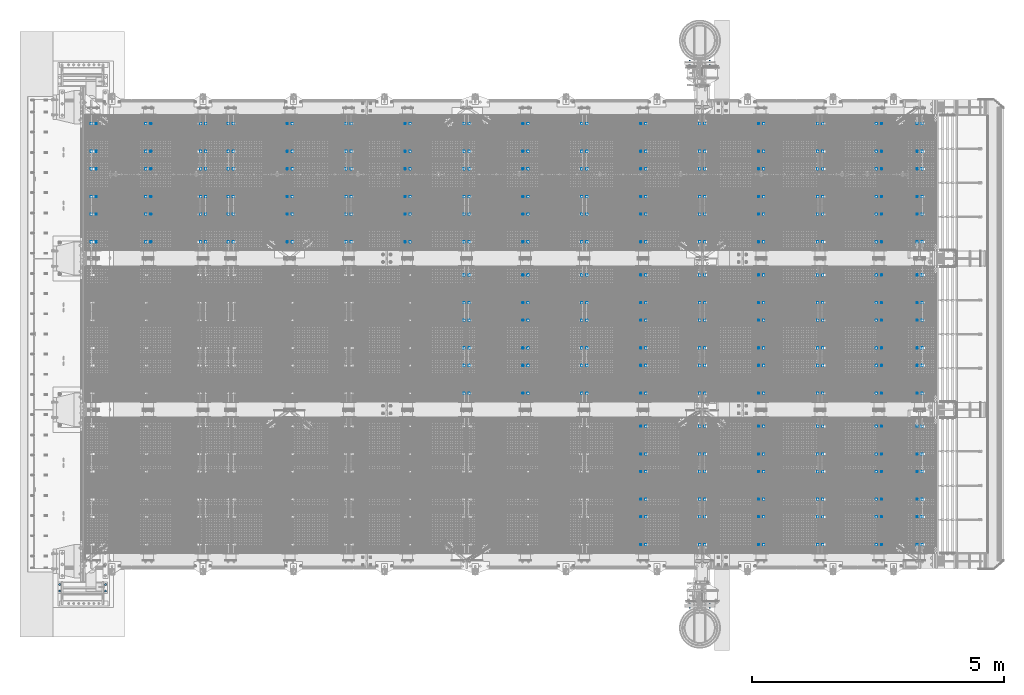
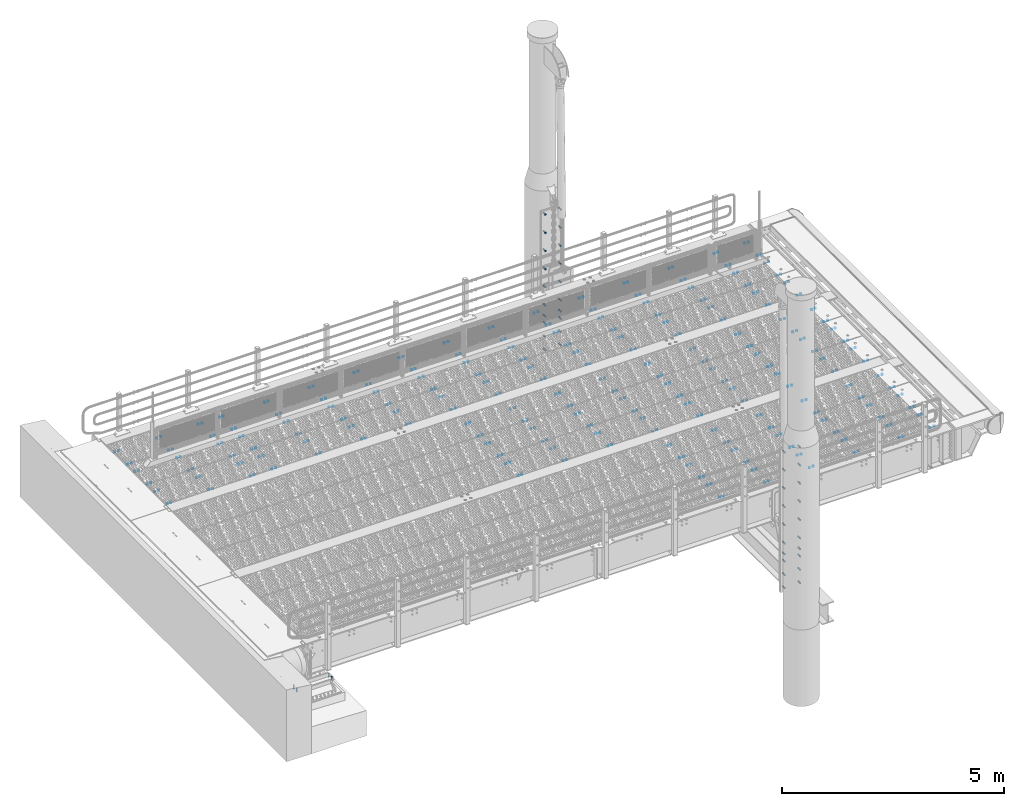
# One storey, part 2 of 1530: 66 mechanical fasteners.
"""IFC2X3 building model written with IfcOpenShell, lengths in millimetres."""

from ifc_helpers import new_model, si_unit, frame, origin_with_axes, place, context, subcontext, project, spatial, faceted_brep, source, transform, mapped, material, type_object, element, save


model = new_model("IFC2X3")

# Units and contexts
model_context = context("Model", 3, precision=1e-05, world=origin_with_axes())
body_context = subcontext(model_context, "Body", "Model", "MODEL_VIEW")
ifc_project = project(units=[si_unit("LENGTHUNIT", "METRE", prefix="MILLI"), si_unit("AREAUNIT", "SQUARE_METRE"), si_unit("VOLUMEUNIT", "CUBIC_METRE"), si_unit("MASSUNIT", "GRAM", prefix="KILO"), si_unit("TIMEUNIT", "SECOND"), si_unit("PLANEANGLEUNIT", "RADIAN"), si_unit("SOLIDANGLEUNIT", "STERADIAN"), si_unit("THERMODYNAMICTEMPERATUREUNIT", "DEGREE_CELSIUS"), si_unit("LUMINOUSINTENSITYUNIT", "LUMEN")], contexts=[model_context])

# Site, building, storey
site_placement = place(None, origin_with_axes())
site = spatial("IfcSite", under=ifc_project, at=site_placement, Name="Brattvåg", CompositionType="ELEMENT")
building_placement = place(site_placement, origin_with_axes())
building = spatial("IfcBuilding", under=site, at=building_placement, Name="Undefined", CompositionType="ELEMENT")
storey_placement = place(building_placement, origin_with_axes())
storey = spatial("IfcBuildingStorey", under=building, at=storey_placement, Name="Undefined", CompositionType="ELEMENT", Elevation=0.0)

# Mechanical fasteners
ifc_material = material(Name="8")
mechanical_fastener_type = type_object("IfcMechanicalFastenerType", Name="Bolt assembly")
shared_shape_1 = source(origin_with_axes(), body_context, "Body", "Brep", [
    faceted_brep([(11.0, 0.0, 0.0), (9.52627944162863, 0.0, 5.50000000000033), (5.49999999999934, 0.0, 9.5262794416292), (-1.13996957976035e-12, 0.0, 11.0), (-5.50000000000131, 0.0, 9.52627944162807), (-9.52627944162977, 0.0, 5.49999999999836), (-11.0, 0.0, -2.27993915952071e-12), (-9.5262794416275, 0.0, -5.5000000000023), (-5.49999999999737, 0.0, -9.52627944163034), (3.40769628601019e-12, 0.0, -11.0), (5.50000000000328, 0.0, -9.52627944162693), (9.52627944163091, 0.0, -5.49999999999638), (9.52627944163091, 15.1, -5.49999999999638), (5.50000000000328, 15.1, -9.52627944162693), (3.40769628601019e-12, 15.1, -11.0), (-5.49999999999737, 15.1, -9.52627944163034), (-9.5262794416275, 15.1, -5.5000000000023), (-11.0, 15.1, -2.27993915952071e-12), (-9.52627944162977, 15.1, 5.49999999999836), (-5.50000000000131, 15.1, 9.52627944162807), (-1.13996957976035e-12, 15.1, 11.0), (5.49999999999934, 15.1, 9.5262794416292), (9.52627944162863, 15.1, 5.50000000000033), (11.0, 15.1, 0.0)], [[[0, 1, 2, 3, 4, 5, 6, 7, 8, 9, 10, 11]], [[12, 13, 14, 15, 16, 17, 18, 19, 20, 21, 22, 23]], [[0, 23, 22, 1]], [[1, 22, 21, 2]], [[2, 21, 20, 3]], [[3, 20, 19, 4]], [[4, 19, 18, 5]], [[5, 18, 17, 6]], [[6, 17, 16, 7]], [[7, 16, 15, 8]], [[8, 15, 14, 9]], [[9, 14, 13, 10]], [[10, 13, 12, 11]], [[11, 12, 23, 0]]]),
])
for number, where, z_axis, x_axis, name in (
    (1, (137.001129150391, 6328.00155639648, -119.998931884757), (-1.0, 1.99999855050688e-09, 0.0), (0.0, 1.0, 0.0), "Bolt assembly"),
    (2, (237.001129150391, 6328.00155639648, -119.998931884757), (-1.0, 1.99999855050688e-09, 0.0), (0.0, 1.0, 0.0), "Bolt assembly"),
    (3, (1221.00112915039, 6328.00155639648, -119.998931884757), (-1.0, 1.99999855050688e-09, 0.0), (0.0, 1.0, 0.0), "Bolt assembly"),
    (4, (1321.00112915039, 6328.00155639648, -119.998931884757), (-1.0, 1.99999855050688e-09, 0.0), (0.0, 1.0, 0.0), "Bolt assembly"),
    (5, (2305.00112915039, 6328.00155639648, -119.998931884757), (-1.0, 1.99999855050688e-09, 0.0), (0.0, 1.0, 0.0), "Bolt assembly"),
    (6, (2405.00112915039, 6328.00155639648, -119.998931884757), (-1.0, 1.99999855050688e-09, 0.0), (0.0, 1.0, 0.0), "Bolt assembly"),
    (7, (2856.00112915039, 6328.00155639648, -119.998931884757), (-1.0, 1.99999855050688e-09, 0.0), (0.0, 1.0, 0.0), "Bolt assembly"),
    (8, (2956.00112915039, 6328.00155639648, -119.998931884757), (-1.0, 1.99999855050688e-09, 0.0), (0.0, 1.0, 0.0), "Bolt assembly"),
    (9, (4024.00112915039, 6328.00155639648, -119.998931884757), (-1.0, 1.99999855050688e-09, 0.0), (0.0, 1.0, 0.0), "Bolt assembly"),
    (10, (4124.00112915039, 6328.00155639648, -119.998931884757), (-1.0, 1.99999855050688e-09, 0.0), (0.0, 1.0, 0.0), "Bolt assembly"),
    (11, (5192.00112915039, 6328.00155639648, -119.998931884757), (-1.0, 1.99999855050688e-09, 0.0), (0.0, 1.0, 0.0), "Bolt assembly"),
    (12, (5292.00112915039, 6328.00155639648, -119.998931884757), (-1.0, 1.99999855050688e-09, 0.0), (0.0, 1.0, 0.0), "Bolt assembly"),
    (13, (6360.00112915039, 6328.00155639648, -119.998931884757), (-1.0, 1.99999855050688e-09, 0.0), (0.0, 1.0, 0.0), "Bolt assembly"),
    (14, (6460.00112915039, 6328.00155639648, -119.998931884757), (-1.0, 1.99999855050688e-09, 0.0), (0.0, 1.0, 0.0), "Bolt assembly"),
    (15, (7528.00112915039, 6328.00155639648, -119.998931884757), (-1.0, 1.99999855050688e-09, 0.0), (0.0, 1.0, 0.0), "Bolt assembly"),
    (16, (7628.00112915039, 6328.00155639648, -119.998931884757), (-1.0, 1.99999855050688e-09, 0.0), (0.0, 1.0, 0.0), "Bolt assembly"),
    (17, (8696.00112915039, 6328.00155639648, -119.998931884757), (-1.0, 1.99999855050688e-09, 0.0), (0.0, 1.0, 0.0), "Bolt assembly"),
    (18, (8796.00112915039, 6328.00155639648, -119.998931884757), (-1.0, 1.99999855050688e-09, 0.0), (0.0, 1.0, 0.0), "Bolt assembly"),
    (19, (9864.00112915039, 6328.00155639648, -119.998931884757), (-1.0, 1.99999855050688e-09, 0.0), (0.0, 1.0, 0.0), "Bolt assembly"),
    (20, (9964.00112915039, 6328.00155639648, -119.998931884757), (-1.0, 1.99999855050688e-09, 0.0), (0.0, 1.0, 0.0), "Bolt assembly"),
    (21, (11032.0011291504, 6328.00155639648, -119.998931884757), (-1.0, 1.99999855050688e-09, 0.0), (0.0, 1.0, 0.0), "Bolt assembly"),
    (22, (11132.0011291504, 6328.00155639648, -119.998931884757), (-1.0, 1.99999855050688e-09, 0.0), (0.0, 1.0, 0.0), "Bolt assembly"),
    (23, (12200.0011291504, 6328.00155639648, -119.998931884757), (-1.0, 1.99999855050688e-09, 0.0), (0.0, 1.0, 0.0), "Bolt assembly"),
    (24, (12300.0011291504, 6328.00155639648, -119.998931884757), (-1.0, 1.99999855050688e-09, 0.0), (0.0, 1.0, 0.0), "Bolt assembly"),
    (25, (13368.0011291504, 6328.00155639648, -119.998931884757), (-1.0, 1.99999855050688e-09, 0.0), (0.0, 1.0, 0.0), "Bolt assembly"),
    (26, (13468.0011291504, 6328.00155639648, -119.998931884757), (-1.0, 1.99999855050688e-09, 0.0), (0.0, 1.0, 0.0), "Bolt assembly"),
    (27, (14536.0011291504, 6328.00155639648, -119.998931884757), (-1.0, 1.99999855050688e-09, 0.0), (0.0, 1.0, 0.0), "Bolt assembly"),
    (28, (14636.0011291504, 6328.00155639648, -119.998931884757), (-1.0, 1.99999855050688e-09, 0.0), (0.0, 1.0, 0.0), "Bolt assembly"),
    (29, (15704.0011291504, 6328.00155639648, -119.998931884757), (-1.0, 1.99999855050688e-09, 0.0), (0.0, 1.0, 0.0), "Bolt assembly"),
    (30, (15804.0011291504, 6328.00155639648, -119.998931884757), (-1.0, 1.99999855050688e-09, 0.0), (0.0, 1.0, 0.0), "Bolt assembly"),
    (31, (16508.0011291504, 6328.00155639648, -119.998931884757), (-1.0, 1.99999855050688e-09, 0.0), (0.0, 1.0, 0.0), "Bolt assembly"),
    (32, (16608.0011291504, 6328.00155639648, -119.998931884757), (-1.0, 1.99999855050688e-09, 0.0), (0.0, 1.0, 0.0), "Bolt assembly"),
    (33, (16508.0011291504, 3328.00155639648, -119.998931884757), (-1.0, 1.99999855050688e-09, 0.0), (0.0, 1.0, 0.0), "Bolt assembly"),
    (34, (16608.0011291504, 3328.00155639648, -119.998931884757), (-1.0, 1.99999855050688e-09, 0.0), (0.0, 1.0, 0.0), "Bolt assembly"),
    (35, (15704.0011291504, 3328.00155639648, -119.998931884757), (-1.0, 1.99999855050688e-09, 0.0), (0.0, 1.0, 0.0), "Bolt assembly"),
    (36, (15804.0011291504, 3328.00155639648, -119.998931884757), (-1.0, 1.99999855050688e-09, 0.0), (0.0, 1.0, 0.0), "Bolt assembly"),
    (37, (14536.0011291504, 3328.00155639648, -119.998931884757), (-1.0, 1.99999855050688e-09, 0.0), (0.0, 1.0, 0.0), "Bolt assembly"),
    (38, (14636.0011291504, 3328.00155639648, -119.998931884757), (-1.0, 1.99999855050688e-09, 0.0), (0.0, 1.0, 0.0), "Bolt assembly"),
    (39, (13368.0011291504, 3328.00155639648, -119.998931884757), (-1.0, 1.99999855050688e-09, 0.0), (0.0, 1.0, 0.0), "Bolt assembly"),
    (40, (13468.0011291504, 3328.00155639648, -119.998931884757), (-1.0, 1.99999855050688e-09, 0.0), (0.0, 1.0, 0.0), "Bolt assembly"),
    (41, (12200.0011291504, 3328.00155639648, -119.998931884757), (-1.0, 1.99999855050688e-09, 0.0), (0.0, 1.0, 0.0), "Bolt assembly"),
    (42, (12300.0011291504, 3328.00155639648, -119.998931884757), (-1.0, 1.99999855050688e-09, 0.0), (0.0, 1.0, 0.0), "Bolt assembly"),
    (43, (11032.0011291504, 3328.00155639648, -119.998931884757), (-1.0, 1.99999855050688e-09, 0.0), (0.0, 1.0, 0.0), "Bolt assembly"),
    (44, (11132.0011291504, 3328.00155639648, -119.998931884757), (-1.0, 1.99999855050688e-09, 0.0), (0.0, 1.0, 0.0), "Bolt assembly"),
    (45, (9864.00112915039, 3328.00155639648, -119.998931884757), (-1.0, 1.99999855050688e-09, 0.0), (0.0, 1.0, 0.0), "Bolt assembly"),
    (46, (9964.00112915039, 3328.00155639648, -119.998931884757), (-1.0, 1.99999855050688e-09, 0.0), (0.0, 1.0, 0.0), "Bolt assembly"),
    (47, (8696.00112915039, 3328.00155639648, -119.998931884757), (-1.0, 1.99999855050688e-09, 0.0), (0.0, 1.0, 0.0), "Bolt assembly"),
    (48, (8796.00112915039, 3328.00155639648, -119.998931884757), (-1.0, 1.99999855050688e-09, 0.0), (0.0, 1.0, 0.0), "Bolt assembly"),
    (49, (7528.00112915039, 3328.00155639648, -119.998931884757), (-1.0, 1.99999855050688e-09, 0.0), (0.0, 1.0, 0.0), "Bolt assembly"),
    (50, (7628.00112915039, 3328.00155639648, -119.998931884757), (-1.0, 1.99999855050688e-09, 0.0), (0.0, 1.0, 0.0), "Bolt assembly"),
    (51, (16508.0011291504, 328.001556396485, -119.998931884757), (-1.0, 1.99999855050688e-09, 0.0), (0.0, 1.0, 0.0), "Bolt assembly"),
    (52, (16608.0011291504, 328.001556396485, -119.998931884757), (-1.0, 1.99999855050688e-09, 0.0), (0.0, 1.0, 0.0), "Bolt assembly"),
    (53, (15704.0011291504, 328.001556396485, -119.998931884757), (-1.0, 1.99999855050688e-09, 0.0), (0.0, 1.0, 0.0), "Bolt assembly"),
    (54, (15804.0011291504, 328.001556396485, -119.998931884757), (-1.0, 1.99999855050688e-09, 0.0), (0.0, 1.0, 0.0), "Bolt assembly"),
    (55, (14536.0011291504, 328.001556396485, -119.998931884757), (-1.0, 1.99999855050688e-09, 0.0), (0.0, 1.0, 0.0), "Bolt assembly"),
    (56, (14636.0011291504, 328.001556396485, -119.998931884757), (-1.0, 1.99999855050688e-09, 0.0), (0.0, 1.0, 0.0), "Bolt assembly"),
    (57, (13368.0011291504, 328.001556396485, -119.998931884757), (-1.0, 1.99999855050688e-09, 0.0), (0.0, 1.0, 0.0), "Bolt assembly"),
    (58, (13468.0011291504, 328.001556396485, -119.998931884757), (-1.0, 1.99999855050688e-09, 0.0), (0.0, 1.0, 0.0), "Bolt assembly"),
    (59, (12200.0011291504, 328.001556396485, -119.998931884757), (-1.0, 1.99999855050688e-09, 0.0), (0.0, 1.0, 0.0), "Bolt assembly"),
    (60, (12300.0011291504, 328.001556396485, -119.998931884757), (-1.0, 1.99999855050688e-09, 0.0), (0.0, 1.0, 0.0), "Bolt assembly"),
    (61, (11032.0011291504, 328.001556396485, -119.998931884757), (-1.0, 1.99999855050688e-09, 0.0), (0.0, 1.0, 0.0), "Bolt assembly"),
    (62, (11132.0011291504, 328.001556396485, -119.998931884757), (-1.0, 1.99999855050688e-09, 0.0), (0.0, 1.0, 0.0), "Bolt assembly"),
):
    element("IfcMechanicalFastener", number, at=place(storey_placement, frame(where, z_axis=z_axis, x_axis=x_axis)), inside=storey, type_object=mechanical_fastener_type, material=ifc_material, Name=name, NominalDiameter=20.0, NominalLength=15.0, context=body_context, shape_type="MappedRepresentation", body=[
        mapped(shared_shape_1, transform((0.0, 0.0, 0.0))),
        mapped(shared_shape_1, transform((549.999999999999, 0.0, 0.0))),
        mapped(shared_shape_1, transform((897.0, 0.0, 0.0))),
        mapped(shared_shape_1, transform((1447.0, 0.0, 0.0))),
        mapped(shared_shape_1, transform((1794.0, 0.0, 0.0))),
        mapped(shared_shape_1, transform((2344.0, 0.0, 0.0))),
    ])
shared_shape_2 = source(origin_with_axes(), body_context, "Body", "Brep", [
    faceted_brep([(20.7846096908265, -49.0000000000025, 0.0), (10.3923048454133, -49.0000000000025, 18.0), (-10.3923048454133, -49.0000000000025, 18.0), (-20.7846096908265, -49.0000000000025, 2.54538057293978e-15), (-10.3923048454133, -49.0000000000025, -18.0), (10.3923048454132, -49.0000000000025, -18.0), (10.3923048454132, -34.0000000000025, -18.0), (-10.3923048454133, -34.0000000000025, -18.0), (-20.7846096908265, -34.0000000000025, 2.54538057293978e-15), (-10.3923048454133, -34.0000000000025, 18.0), (10.3923048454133, -34.0000000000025, 18.0), (20.7846096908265, -34.0000000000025, 0.0), (12.0, -34.0000000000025, 0.0), (10.3923048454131, -34.0000000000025, 6.00000000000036), (5.99999999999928, -34.0000000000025, 10.3923048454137), (-1.24360317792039e-12, -34.0000000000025, 12.0), (-6.00000000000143, -34.0000000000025, 10.3923048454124), (-10.3923048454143, -34.0000000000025, 5.99999999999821), (-12.0, -34.0000000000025, -2.48720635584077e-12), (-10.3923048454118, -34.0000000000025, -6.00000000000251), (-5.99999999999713, -34.0000000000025, -10.3923048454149), (3.71748685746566e-12, -34.0000000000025, -12.0), (6.00000000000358, -34.0000000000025, -10.3923048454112), (10.3923048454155, -34.0000000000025, -5.99999999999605), (10.3923048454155, 65.9999999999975, -5.99999999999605), (6.00000000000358, 65.9999999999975, -10.3923048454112), (3.71748685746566e-12, 65.9999999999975, -12.0), (-5.99999999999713, 65.9999999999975, -10.3923048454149), (-10.3923048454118, 65.9999999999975, -6.00000000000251), (-12.0, 65.9999999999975, -2.48720635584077e-12), (-10.3923048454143, 65.9999999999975, 5.99999999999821), (-6.00000000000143, 65.9999999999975, 10.3923048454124), (-1.24360317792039e-12, 65.9999999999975, 12.0), (5.99999999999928, 65.9999999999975, 10.3923048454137), (10.3923048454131, 65.9999999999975, 6.00000000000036), (12.0, 65.9999999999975, 0.0), (22.0, -34.0000000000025, 0.0), (19.0525588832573, -34.0000000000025, 11.0000000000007), (10.9999999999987, -34.0000000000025, 19.0525588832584), (-2.27993915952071e-12, -34.0000000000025, 22.0), (-11.0000000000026, -34.0000000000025, 19.0525588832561), (-19.0525588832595, -34.0000000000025, 10.9999999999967), (-22.0, -34.0000000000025, -4.55987831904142e-12), (-19.052558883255, -34.0000000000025, -11.0000000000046), (-10.9999999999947, -34.0000000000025, -19.0525588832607), (6.81539257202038e-12, -34.0000000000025, -22.0), (11.0000000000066, -34.0000000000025, -19.0525588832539), (19.0525588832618, -34.0000000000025, -10.9999999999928), (19.0525588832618, -30.0000000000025, -10.9999999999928), (11.0000000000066, -30.0000000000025, -19.0525588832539), (6.81539257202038e-12, -30.0000000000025, -22.0), (-10.9999999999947, -30.0000000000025, -19.0525588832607), (-19.052558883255, -30.0000000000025, -11.0000000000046), (-22.0, -30.0000000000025, -4.55987831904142e-12), (-19.0525588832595, -30.0000000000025, 10.9999999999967), (-11.0000000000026, -30.0000000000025, 19.0525588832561), (-2.27993915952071e-12, -30.0000000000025, 22.0), (10.9999999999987, -30.0000000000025, 19.0525588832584), (19.0525588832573, -30.0000000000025, 11.0000000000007), (22.0, -30.0000000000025, 0.0), (22.0, 29.9999999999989, 0.0), (19.0525588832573, 29.9999999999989, 11.0000000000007), (10.9999999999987, 29.9999999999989, 19.0525588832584), (-2.27993915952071e-12, 29.9999999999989, 22.0), (-11.0000000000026, 29.9999999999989, 19.0525588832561), (-19.0525588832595, 29.9999999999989, 10.9999999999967), (-22.0, 29.9999999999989, -4.55987831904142e-12), (-19.052558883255, 29.9999999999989, -11.0000000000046), (-10.9999999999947, 29.9999999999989, -19.0525588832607), (6.81539257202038e-12, 29.9999999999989, -22.0), (11.0000000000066, 29.9999999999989, -19.0525588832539), (19.0525588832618, 29.9999999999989, -10.9999999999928), (19.0525588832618, 33.9999999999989, -10.9999999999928), (11.0000000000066, 33.9999999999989, -19.0525588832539), (6.81539257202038e-12, 33.9999999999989, -22.0), (-10.9999999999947, 33.9999999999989, -19.0525588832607), (-19.052558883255, 33.9999999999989, -11.0000000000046), (-22.0, 33.9999999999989, -4.55987831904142e-12), (-19.0525588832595, 33.9999999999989, 10.9999999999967), (-11.0000000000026, 33.9999999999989, 19.0525588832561), (-2.27993915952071e-12, 33.9999999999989, 22.0), (10.9999999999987, 33.9999999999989, 19.0525588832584), (19.0525588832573, 33.9999999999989, 11.0000000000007), (22.0, 33.9999999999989, 0.0), (20.7846096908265, 33.9999999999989, 0.0), (10.3923048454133, 33.9999999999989, 18.0), (-10.3923048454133, 33.9999999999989, 18.0), (-20.7846096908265, 33.9999999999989, 2.54538057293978e-15), (-10.3923048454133, 33.9999999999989, -18.0), (10.3923048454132, 33.9999999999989, -18.0), (10.3923048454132, 55.4999999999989, -18.0), (-10.3923048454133, 55.4999999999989, -18.0), (-20.7846096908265, 55.4999999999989, 2.54538057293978e-15), (-10.3923048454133, 55.4999999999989, 18.0), (10.3923048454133, 55.4999999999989, 18.0), (20.7846096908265, 55.4999999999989, 0.0)], [[[0, 1, 2, 3, 4, 5]], [[6, 7, 8, 9, 10, 11]], [[0, 11, 10, 1]], [[1, 10, 9, 2]], [[2, 9, 8, 3]], [[3, 8, 7, 4]], [[4, 7, 6, 5]], [[5, 6, 11, 0]], [[12, 13, 14, 15, 16, 17, 18, 19, 20, 21, 22, 23]], [[24, 25, 26, 27, 28, 29, 30, 31, 32, 33, 34, 35]], [[12, 35, 34, 13]], [[13, 34, 33, 14]], [[14, 33, 32, 15]], [[15, 32, 31, 16]], [[16, 31, 30, 17]], [[17, 30, 29, 18]], [[18, 29, 28, 19]], [[19, 28, 27, 20]], [[20, 27, 26, 21]], [[21, 26, 25, 22]], [[22, 25, 24, 23]], [[23, 24, 35, 12]], [[36, 37, 38, 39, 40, 41, 42, 43, 44, 45, 46, 47]], [[48, 49, 50, 51, 52, 53, 54, 55, 56, 57, 58, 59]], [[36, 59, 58, 37]], [[37, 58, 57, 38]], [[38, 57, 56, 39]], [[39, 56, 55, 40]], [[40, 55, 54, 41]], [[41, 54, 53, 42]], [[42, 53, 52, 43]], [[43, 52, 51, 44]], [[44, 51, 50, 45]], [[45, 50, 49, 46]], [[46, 49, 48, 47]], [[47, 48, 59, 36]], [[60, 61, 62, 63, 64, 65, 66, 67, 68, 69, 70, 71]], [[72, 73, 74, 75, 76, 77, 78, 79, 80, 81, 82, 83]], [[60, 83, 82, 61]], [[61, 82, 81, 62]], [[62, 81, 80, 63]], [[63, 80, 79, 64]], [[64, 79, 78, 65]], [[65, 78, 77, 66]], [[66, 77, 76, 67]], [[67, 76, 75, 68]], [[68, 75, 74, 69]], [[69, 74, 73, 70]], [[70, 73, 72, 71]], [[71, 72, 83, 60]], [[84, 85, 86, 87, 88, 89]], [[90, 91, 92, 93, 94, 95]], [[84, 95, 94, 85]], [[85, 94, 93, 86]], [[86, 93, 92, 87]], [[87, 92, 91, 88]], [[88, 91, 90, 89]], [[89, 90, 95, 84]]]),
    faceted_brep([(13.0, -29.9000000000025, 0.0), (11.2583302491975, -29.9000000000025, 6.50000000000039), (6.49999999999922, -29.9000000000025, 11.2583302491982), (-1.34723677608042e-12, -29.9000000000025, 13.0), (-6.50000000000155, -29.9000000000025, 11.2583302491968), (-11.2583302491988, -29.9000000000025, 6.49999999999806), (-13.0, -29.9000000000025, -2.69447355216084e-12), (-11.2583302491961, -29.9000000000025, -6.50000000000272), (-6.4999999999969, -29.9000000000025, -11.2583302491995), (4.02727742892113e-12, -29.9000000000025, -13.0), (6.50000000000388, -29.9000000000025, -11.2583302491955), (11.2583302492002, -29.9000000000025, -6.49999999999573), (11.2583302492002, 0.0999999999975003, -6.49999999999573), (6.50000000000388, 0.0999999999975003, -11.2583302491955), (4.02727742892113e-12, 0.0999999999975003, -13.0), (-6.4999999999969, 0.0999999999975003, -11.2583302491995), (-11.2583302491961, 0.0999999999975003, -6.50000000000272), (-13.0, 0.0999999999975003, -2.69447355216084e-12), (-11.2583302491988, 0.0999999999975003, 6.49999999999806), (-6.50000000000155, 0.0999999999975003, 11.2583302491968), (-1.34723677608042e-12, 0.0999999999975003, 13.0), (6.49999999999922, 0.0999999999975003, 11.2583302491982), (11.2583302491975, 0.0999999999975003, 6.50000000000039), (13.0, 0.0999999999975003, 0.0), (13.0, -0.100000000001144, 0.0), (11.2583302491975, -0.100000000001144, 6.50000000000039), (6.49999999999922, -0.100000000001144, 11.2583302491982), (-1.34723677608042e-12, -0.100000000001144, 13.0), (-6.50000000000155, -0.100000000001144, 11.2583302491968), (-11.2583302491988, -0.100000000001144, 6.49999999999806), (-13.0, -0.100000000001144, -2.69447355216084e-12), (-11.2583302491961, -0.100000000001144, -6.50000000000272), (-6.4999999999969, -0.100000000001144, -11.2583302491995), (4.02727742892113e-12, -0.100000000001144, -13.0), (6.50000000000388, -0.100000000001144, -11.2583302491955), (11.2583302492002, -0.100000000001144, -6.49999999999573), (11.2583302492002, 29.9999999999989, -6.49999999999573), (6.50000000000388, 29.9999999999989, -11.2583302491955), (4.02727742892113e-12, 29.9999999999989, -13.0), (-6.4999999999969, 29.9999999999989, -11.2583302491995), (-11.2583302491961, 29.9999999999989, -6.50000000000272), (-13.0, 29.9999999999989, -2.69447355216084e-12), (-11.2583302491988, 29.9999999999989, 6.49999999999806), (-6.50000000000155, 29.9999999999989, 11.2583302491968), (-1.34723677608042e-12, 29.9999999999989, 13.0), (6.49999999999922, 29.9999999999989, 11.2583302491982), (11.2583302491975, 29.9999999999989, 6.50000000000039), (13.0, 29.9999999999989, 0.0)], [[[0, 1, 2, 3, 4, 5, 6, 7, 8, 9, 10, 11]], [[12, 13, 14, 15, 16, 17, 18, 19, 20, 21, 22, 23]], [[0, 23, 22, 1]], [[1, 22, 21, 2]], [[2, 21, 20, 3]], [[3, 20, 19, 4]], [[4, 19, 18, 5]], [[5, 18, 17, 6]], [[6, 17, 16, 7]], [[7, 16, 15, 8]], [[8, 15, 14, 9]], [[9, 14, 13, 10]], [[10, 13, 12, 11]], [[11, 12, 23, 0]], [[24, 25, 26, 27, 28, 29, 30, 31, 32, 33, 34, 35]], [[36, 37, 38, 39, 40, 41, 42, 43, 44, 45, 46, 47]], [[24, 47, 46, 25]], [[25, 46, 45, 26]], [[26, 45, 44, 27]], [[27, 44, 43, 28]], [[28, 43, 42, 29]], [[29, 42, 41, 30]], [[30, 41, 40, 31]], [[31, 40, 39, 32]], [[32, 39, 38, 33]], [[33, 38, 37, 34]], [[34, 37, 36, 35]], [[35, 36, 47, 24]]]),
])
for number, where, z_axis, x_axis, name in (
    (63, (-488.999828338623, -592.498931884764, -817.999973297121), (-1.0, 1.99999855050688e-09, 0.0), (0.0, 1.0, 0.0), "Bolt assembly"),
    (64, (420.000171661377, -592.498931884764, -817.999973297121), (-1.0, 1.99999855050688e-09, 0.0), (0.0, 1.0, 0.0), "Bolt assembly"),
):
    element("IfcMechanicalFastener", number, at=place(storey_placement, frame(where, z_axis=z_axis, x_axis=x_axis)), inside=storey, type_object=mechanical_fastener_type, material=ifc_material, Name=name, NominalDiameter=24.0, NominalLength=100.0, context=body_context, shape_type="MappedRepresentation", body=[
        mapped(shared_shape_2, transform((0.0, 0.0, 0.0))),
        mapped(shared_shape_2, transform((130.0, 0.0, 0.0))),
    ])
shared_shape_3 = source(origin_with_axes(), body_context, "Body", "Brep", [
    faceted_brep([(17.3205080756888, -13.2, 0.0), (8.66025403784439, -13.2, 15.0), (-8.66025403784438, -13.2, 15.0), (-17.3205080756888, -13.2, 2.12115047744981e-15), (-8.66025403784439, -13.2, -15.0), (8.66025403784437, -13.2, -15.0), (8.66025403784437, 0.0, -15.0), (-8.66025403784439, 0.0, -15.0), (-17.3205080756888, 0.0, 2.12115047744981e-15), (-8.66025403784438, 0.0, 15.0), (8.66025403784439, 0.0, 15.0), (17.3205080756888, 0.0, 0.0), (10.0, 0.0, 0.0), (8.66025403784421, 0.0, 5.0000000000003), (4.9999999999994, 0.0, 8.66025403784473), (-1.03633598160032e-12, 0.0, 10.0), (-5.00000000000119, 0.0, 8.6602540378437), (-8.66025403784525, 0.0, 4.99999999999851), (-9.99999999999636, 0.0, 0.0), (-8.66025403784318, 0.0, -5.00000000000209), (-4.99999999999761, 0.0, -8.66025403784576), (3.09790571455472e-12, 0.0, -10.0), (5.00000000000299, 0.0, -8.66025403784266), (8.66025403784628, 0.0, -4.99999999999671), (8.66025403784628, 90.0, -4.99999999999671), (5.00000000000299, 90.0, -8.66025403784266), (3.09790571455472e-12, 90.0, -10.0), (-4.99999999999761, 90.0, -8.66025403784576), (-8.66025403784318, 90.0, -5.00000000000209), (-10.0, 90.0, -2.07267196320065e-12), (-8.66025403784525, 90.0, 4.99999999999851), (-5.00000000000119, 90.0, 8.6602540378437), (-1.03633598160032e-12, 90.0, 10.0), (4.9999999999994, 90.0, 8.66025403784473), (8.66025403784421, 90.0, 5.0000000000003), (10.0, 90.0, 0.0), (18.5, 65.0, 0.0), (16.0214699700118, 65.0, 9.25000000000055), (9.2499999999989, 65.0, 16.0214699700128), (-1.9172215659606e-12, 65.0, 18.5), (-9.25000000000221, 65.0, 16.0214699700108), (-16.0214699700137, 65.0, 9.24999999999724), (-18.5, 65.0, -3.83444313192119e-12), (-16.0214699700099, 65.0, -9.25000000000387), (-9.24999999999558, 65.0, -16.0214699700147), (5.73112557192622e-12, 65.0, -18.5), (9.25000000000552, 65.0, -16.0214699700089), (16.0214699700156, 65.0, -9.24999999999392), (16.0214699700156, 68.0, -9.24999999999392), (9.25000000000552, 68.0, -16.0214699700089), (5.73112557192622e-12, 68.0, -18.5), (-9.24999999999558, 68.0, -16.0214699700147), (-16.0214699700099, 68.0, -9.25000000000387), (-18.5, 68.0, -3.83444313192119e-12), (-16.0214699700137, 68.0, 9.24999999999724), (-9.25000000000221, 68.0, 16.0214699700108), (-1.9172215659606e-12, 68.0, 18.5), (9.2499999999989, 68.0, 16.0214699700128), (16.0214699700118, 68.0, 9.25000000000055), (18.5, 68.0, 0.0), (17.3205080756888, 68.0, 0.0), (8.66025403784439, 68.0, 15.0), (-8.66025403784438, 68.0, 15.0), (-17.3205080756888, 68.0, 2.12115047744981e-15), (-8.66025403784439, 68.0, -15.0), (8.66025403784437, 68.0, -15.0), (8.66025403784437, 84.0, -15.0), (-8.66025403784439, 84.0, -15.0), (-17.3205080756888, 84.0, 2.12115047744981e-15), (-8.66025403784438, 84.0, 15.0), (8.66025403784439, 84.0, 15.0), (17.3205080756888, 84.0, 0.0)], [[[0, 1, 2, 3, 4, 5]], [[6, 7, 8, 9, 10, 11]], [[0, 11, 10, 1]], [[1, 10, 9, 2]], [[2, 9, 8, 3]], [[3, 8, 7, 4]], [[4, 7, 6, 5]], [[5, 6, 11, 0]], [[12, 13, 14, 15, 16, 17, 18, 19, 20, 21, 22, 23]], [[24, 25, 26, 27, 28, 29, 30, 31, 32, 33, 34, 35]], [[12, 35, 34, 13]], [[13, 34, 33, 14]], [[14, 33, 32, 15]], [[15, 32, 31, 16]], [[16, 31, 30, 17]], [[17, 30, 29, 18]], [[18, 29, 28, 19]], [[19, 28, 27, 20]], [[20, 27, 26, 21]], [[21, 26, 25, 22]], [[22, 25, 24, 23]], [[23, 24, 35, 12]], [[36, 37, 38, 39, 40, 41, 42, 43, 44, 45, 46, 47]], [[48, 49, 50, 51, 52, 53, 54, 55, 56, 57, 58, 59]], [[36, 59, 58, 37]], [[37, 58, 57, 38]], [[38, 57, 56, 39]], [[39, 56, 55, 40]], [[40, 55, 54, 41]], [[41, 54, 53, 42]], [[42, 53, 52, 43]], [[43, 52, 51, 44]], [[44, 51, 50, 45]], [[45, 50, 49, 46]], [[46, 49, 48, 47]], [[47, 48, 59, 36]], [[60, 61, 62, 63, 64, 65]], [[66, 67, 68, 69, 70, 71]], [[60, 71, 70, 61]], [[61, 70, 69, 62]], [[62, 69, 68, 63]], [[63, 68, 67, 64]], [[64, 67, 66, 65]], [[65, 66, 71, 60]]]),
    faceted_brep([(11.0, 0.1, 0.0), (9.52627944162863, 0.1, 5.50000000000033), (5.49999999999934, 0.1, 9.5262794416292), (-1.13996957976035e-12, 0.1, 11.0), (-5.50000000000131, 0.1, 9.52627944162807), (-9.52627944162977, 0.1, 5.49999999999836), (-11.0, 0.1, -2.27993915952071e-12), (-9.5262794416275, 0.1, -5.5000000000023), (-5.49999999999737, 0.1, -9.52627944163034), (3.40769628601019e-12, 0.1, -11.0), (5.50000000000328, 0.1, -9.52627944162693), (9.52627944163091, 0.1, -5.49999999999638), (9.52627944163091, 40.1, -5.49999999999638), (5.50000000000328, 40.1, -9.52627944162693), (3.40769628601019e-12, 40.1, -11.0), (-5.49999999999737, 40.1, -9.52627944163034), (-9.5262794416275, 40.1, -5.5000000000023), (-11.0, 40.1, -2.27993915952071e-12), (-9.52627944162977, 40.1, 5.49999999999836), (-5.50000000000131, 40.1, 9.52627944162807), (-1.13996957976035e-12, 40.1, 11.0), (5.49999999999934, 40.1, 9.5262794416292), (9.52627944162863, 40.1, 5.50000000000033), (11.0, 40.1, 0.0), (11.0, 39.9, 0.0), (9.52627944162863, 39.9, 5.50000000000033), (5.49999999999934, 39.9, 9.5262794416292), (-1.13996957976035e-12, 39.9, 11.0), (-5.50000000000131, 39.9, 9.52627944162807), (-9.52627944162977, 39.9, 5.49999999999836), (-11.0, 39.9, -2.27993915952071e-12), (-9.5262794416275, 39.9, -5.5000000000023), (-5.49999999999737, 39.9, -9.52627944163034), (3.40769628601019e-12, 39.9, -11.0), (5.50000000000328, 39.9, -9.52627944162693), (9.52627944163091, 39.9, -5.49999999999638), (9.52627944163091, 65.0, -5.49999999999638), (5.50000000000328, 65.0, -9.52627944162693), (3.40769628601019e-12, 65.0, -11.0), (-5.49999999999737, 65.0, -9.52627944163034), (-9.5262794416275, 65.0, -5.5000000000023), (-11.0, 65.0, -2.27993915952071e-12), (-9.52627944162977, 65.0, 5.49999999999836), (-5.50000000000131, 65.0, 9.52627944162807), (-1.13996957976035e-12, 65.0, 11.0), (5.49999999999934, 65.0, 9.5262794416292), (9.52627944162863, 65.0, 5.50000000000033), (11.0, 65.0, 0.0)], [[[0, 1, 2, 3, 4, 5, 6, 7, 8, 9, 10, 11]], [[12, 13, 14, 15, 16, 17, 18, 19, 20, 21, 22, 23]], [[0, 23, 22, 1]], [[1, 22, 21, 2]], [[2, 21, 20, 3]], [[3, 20, 19, 4]], [[4, 19, 18, 5]], [[5, 18, 17, 6]], [[6, 17, 16, 7]], [[7, 16, 15, 8]], [[8, 15, 14, 9]], [[9, 14, 13, 10]], [[10, 13, 12, 11]], [[11, 12, 23, 0]], [[24, 25, 26, 27, 28, 29, 30, 31, 32, 33, 34, 35]], [[36, 37, 38, 39, 40, 41, 42, 43, 44, 45, 46, 47]], [[24, 47, 46, 25]], [[25, 46, 45, 26]], [[26, 45, 44, 27]], [[27, 44, 43, 28]], [[28, 43, 42, 29]], [[29, 42, 41, 30]], [[30, 41, 40, 31]], [[31, 40, 39, 32]], [[32, 39, 38, 33]], [[33, 38, 37, 34]], [[34, 37, 36, 35]], [[35, 36, 47, 24]]]),
])
mechanical_fastener_1_placement = place(storey_placement, frame((12200.0002975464, 9849.99983596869, -2199.99997283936), z_axis=(-1.0, 1.99999855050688e-09, 0.0), x_axis=(0.0, 0.0, 1.0)))
element("IfcMechanicalFastener", 65, at=mechanical_fastener_1_placement, inside=storey, type_object=mechanical_fastener_type, material=ifc_material, Name="Bolt assembly", NominalDiameter=20.0, NominalLength=90.0, context=body_context, shape_type="MappedRepresentation", body=[
    mapped(shared_shape_3, transform((0.0, 0.0, 200.0))),
    mapped(shared_shape_3, transform((365.0, 0.0, 200.0))),
    mapped(shared_shape_3, transform((730.0, 0.0, 200.0))),
    mapped(shared_shape_3, transform((930.0, 0.0, 200.0))),
    mapped(shared_shape_3, transform((1230.0, 0.0, 200.0))),
    mapped(shared_shape_3, transform((1730.0, 0.0, 200.0))),
    mapped(shared_shape_3, transform((2230.0, 0.0, 200.0))),
    mapped(shared_shape_3, transform((2730.0, 0.0, 200.0))),
    mapped(shared_shape_3, transform((3230.0, 0.0, 200.0))),
    mapped(shared_shape_3, transform((3730.0, 0.0, 200.0))),
    mapped(shared_shape_3, transform((0.0, 0.0, -200.0))),
    mapped(shared_shape_3, transform((365.0, 0.0, -200.0))),
    mapped(shared_shape_3, transform((730.0, 0.0, -200.0))),
    mapped(shared_shape_3, transform((930.0, 0.0, -200.0))),
    mapped(shared_shape_3, transform((1230.0, 0.0, -200.0))),
    mapped(shared_shape_3, transform((1730.0, 0.0, -200.0))),
    mapped(shared_shape_3, transform((2230.0, 0.0, -200.0))),
    mapped(shared_shape_3, transform((2730.0, 0.0, -200.0))),
    mapped(shared_shape_3, transform((3230.0, 0.0, -200.0))),
    mapped(shared_shape_3, transform((3730.0, 0.0, -200.0))),
])
mechanical_fastener_2_placement = place(storey_placement, frame((12200.0002975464, -849.999835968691, -2199.99997283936), z_axis=(1.0, 0.0, 0.0), x_axis=(0.0, 0.0, 1.0)))
element("IfcMechanicalFastener", 66, at=mechanical_fastener_2_placement, inside=storey, type_object=mechanical_fastener_type, material=ifc_material, Name="Bolt assembly", NominalDiameter=20.0, NominalLength=90.0, context=body_context, shape_type="MappedRepresentation", body=[
    mapped(shared_shape_3, transform((0.0, 0.0, -200.0))),
    mapped(shared_shape_3, transform((365.0, 0.0, -200.0))),
    mapped(shared_shape_3, transform((730.0, 0.0, -200.0))),
    mapped(shared_shape_3, transform((930.0, 0.0, -200.0))),
    mapped(shared_shape_3, transform((1230.0, 0.0, -200.0))),
    mapped(shared_shape_3, transform((1730.0, 0.0, -200.0))),
    mapped(shared_shape_3, transform((2230.0, 0.0, -200.0))),
    mapped(shared_shape_3, transform((2730.0, 0.0, -200.0))),
    mapped(shared_shape_3, transform((3230.0, 0.0, -200.0))),
    mapped(shared_shape_3, transform((3730.0, 0.0, -200.0))),
    mapped(shared_shape_3, transform((0.0, 0.0, 200.0))),
    mapped(shared_shape_3, transform((365.0, 0.0, 200.0))),
    mapped(shared_shape_3, transform((730.0, 0.0, 200.0))),
    mapped(shared_shape_3, transform((930.0, 0.0, 200.0))),
    mapped(shared_shape_3, transform((1230.0, 0.0, 200.0))),
    mapped(shared_shape_3, transform((1730.0, 0.0, 200.0))),
    mapped(shared_shape_3, transform((2230.0, 0.0, 200.0))),
    mapped(shared_shape_3, transform((2730.0, 0.0, 200.0))),
    mapped(shared_shape_3, transform((3230.0, 0.0, 200.0))),
    mapped(shared_shape_3, transform((3730.0, 0.0, 200.0))),
])

save(model, "model.ifc")
